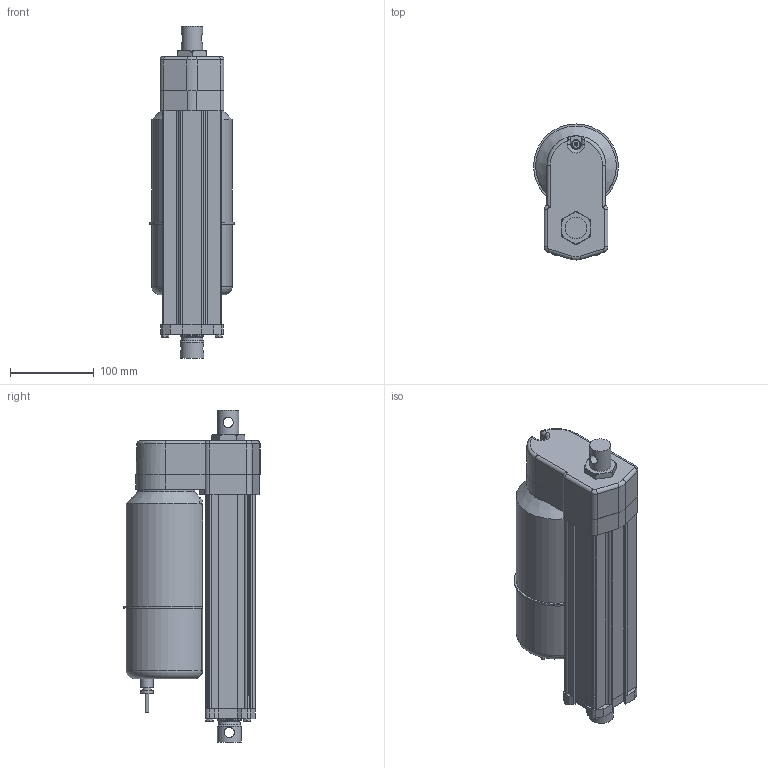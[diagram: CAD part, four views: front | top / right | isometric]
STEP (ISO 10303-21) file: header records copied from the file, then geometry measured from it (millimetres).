
FILE_DESCRIPTION (( 'STEP AP214' ), '1' );
FILE_NAME ('AA22-05B65M-15M0N-tollo.step', '2020-04-14T18:43:05', ( '' ), ( '' ), 'SwSTEP 2.0', 'SolidWorks 2010', '' );
FILE_SCHEMA (( 'AUTOMOTIVE_DESIGN' ));
Length unit declared in the file: millimetre
Products named in the file (8): Electrak-LA24-Motor-AA22-05B65M-15M0N-tollo_Electrak-LA24-Motor-AA22-05B65M-15M0N-tollo; Electrak-LA24-Rear-AA22-05B65M-15M0N-tollo_Electrak-LA24-Rear-AA22-05B65M-15M0N-tollo; Electrak-LA24-Tube-AA22-05B65M-15M0N-tollo_Electrak-LA24-Tube-AA22-05B65M-15M0N-tollo; Electrak-LA24-Rod-AA22-05B65M-15M0N-tollo_Electrak-LA24-Rod-AA22-05B65M-15M0N-tollo; Electrak-LA24-Plate-AA22-05B65M-15M0N-tollo_Electrak-LA24-Plate-AA22-05B65M-15M0N-tollo; Screw-MFX-H-M5_Screw-MFX-H-M5x24H; Screw-M6S-M5-AA22-05B65M-15M0N-tollo_Screw-M6S-M5-AA22-05B65M-15M0N-tollo; AA22-05B65M-15M0N-tollo
Assembly tree (10 placements, depth 2):
  AA22-05B65M-15M0N-tollo
    Screw-M6S-M5-AA22-05B65M-15M0N-tollo_Screw-M6S-M5-AA22-05B65M-15M0N-tollo  x4
    Electrak-LA24-Motor-AA22-05B65M-15M0N-tollo_Electrak-LA24-Motor-AA22-05B65M-15M0N-tollo
    Screw-MFX-H-M5_Screw-MFX-H-M5x24H
    Electrak-LA24-Rear-AA22-05B65M-15M0N-tollo_Electrak-LA24-Rear-AA22-05B65M-15M0N-tollo
    Electrak-LA24-Plate-AA22-05B65M-15M0N-tollo_Electrak-LA24-Plate-AA22-05B65M-15M0N-tollo
    Electrak-LA24-Tube-AA22-05B65M-15M0N-tollo_Electrak-LA24-Tube-AA22-05B65M-15M0N-tollo
    Electrak-LA24-Rod-AA22-05B65M-15M0N-tollo_Electrak-LA24-Rod-AA22-05B65M-15M0N-tollo
Bounding box: 100.99 x 162.5 x 395.7 mm (x, y, z)
Volume: 2591833.8 mm3; surface area: 320059.4 mm2
Topology: 10 solids, 10 shells, 353 faces, 886 edges, 572 vertices
Faces by surface type: plane 174, cylinder 128, cone 31, torus 15, bspline 3, sphere 2
Full cylindrical faces by diameter (mm): 4 x1, 4.126 x5, 4.8 x6, 5 x5, 5.6 x4, 7.878 x4, 9.3 x1, 10 x1, 12.2 x2, 15 x2, 25.4 x1, 28.6 x4, 47.625 x1, 68 x1
Entity records: 9633 total; most frequent: CARTESIAN_POINT 2397, DIRECTION 1446, ORIENTED_EDGE 1338, EDGE_CURVE 669, AXIS2_PLACEMENT_3D 527, VERTEX_POINT 460, VECTOR 392, LINE 392
